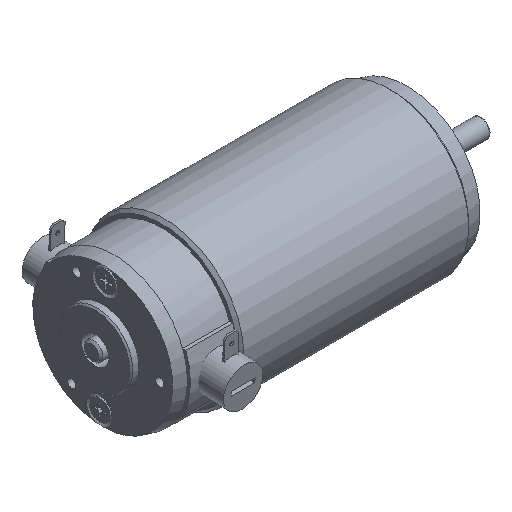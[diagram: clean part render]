
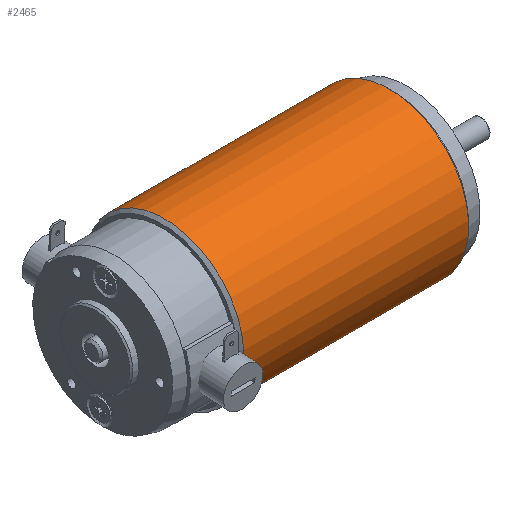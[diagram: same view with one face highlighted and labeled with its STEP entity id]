
A CAD part, isometric view. The second image highlights one B-rep face of the part: STEP entity #2465.
In plain terms, the highlighted cylindrical face has radius 27 mm (diameter 54 mm), a full revolution.
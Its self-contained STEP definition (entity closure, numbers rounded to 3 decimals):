
#287=CYLINDRICAL_SURFACE('',#2876,27.);
#328=FACE_OUTER_BOUND('',#476,.T.);
#476=EDGE_LOOP('',(#1729,#1730,#1731,#1732));
#665=LINE('',#3989,#830);
#830=VECTOR('',#3200,27.);
#994=CIRCLE('',#2874,27.);
#996=CIRCLE('',#2877,27.);
#1130=VERTEX_POINT('',#3981);
#1132=VERTEX_POINT('',#3987);
#1368=EDGE_CURVE('',#1130,#1130,#994,.T.);
#1371=EDGE_CURVE('',#1132,#1132,#996,.T.);
#1372=EDGE_CURVE('',#1132,#1130,#665,.T.);
#1729=ORIENTED_EDGE('',*,*,#1371,.F.);
#1730=ORIENTED_EDGE('',*,*,#1372,.T.);
#1731=ORIENTED_EDGE('',*,*,#1368,.F.);
#1732=ORIENTED_EDGE('',*,*,#1372,.F.);
#2465=ADVANCED_FACE('',(#328),#287,.T.);
#2874=AXIS2_PLACEMENT_3D('',#3982,#3191,#3192);
#2876=AXIS2_PLACEMENT_3D('',#3986,#3196,#3197);
#2877=AXIS2_PLACEMENT_3D('',#3988,#3198,#3199);
#3191=DIRECTION('center_axis',(0.,0.,-1.));
#3192=DIRECTION('ref_axis',(-1.,0.,0.));
#3196=DIRECTION('center_axis',(0.,0.,1.));
#3197=DIRECTION('ref_axis',(-1.,0.,0.));
#3198=DIRECTION('center_axis',(0.,0.,1.));
#3199=DIRECTION('ref_axis',(-1.,0.,0.));
#3200=DIRECTION('',(0.,0.,-1.));
#3981=CARTESIAN_POINT('',(27.,0.,1.));
#3982=CARTESIAN_POINT('Origin',(0.,0.,1.));
#3986=CARTESIAN_POINT('Origin',(0.,0.,0.));
#3987=CARTESIAN_POINT('',(27.,0.,77.4));
#3988=CARTESIAN_POINT('Origin',(0.,0.,77.4));
#3989=CARTESIAN_POINT('',(27.,0.,0.));
